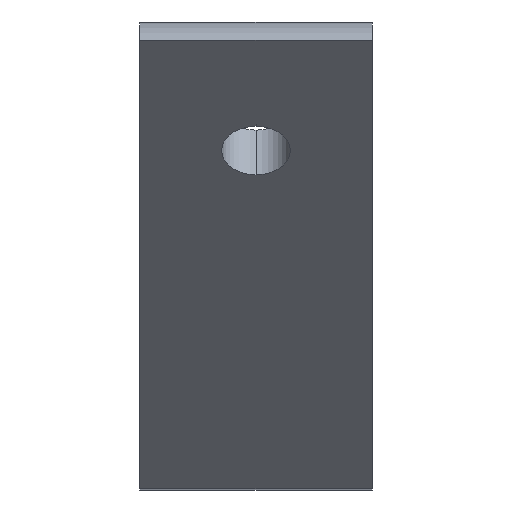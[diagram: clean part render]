
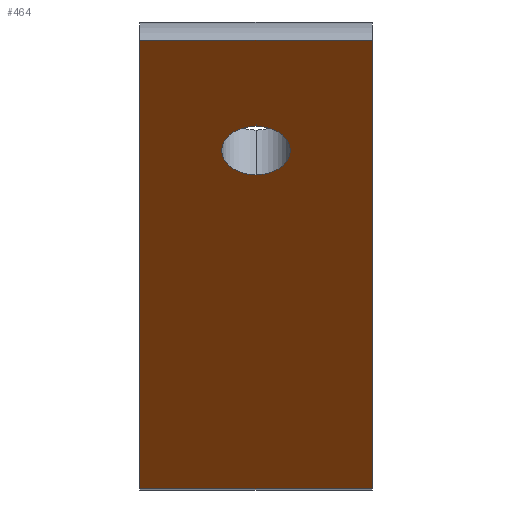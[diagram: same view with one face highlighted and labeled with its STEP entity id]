
A CAD part, top view. The second image highlights one B-rep face of the part: STEP entity #464.
In plain terms, the highlighted planar face has unit normal (0, -0.707, 0.707).
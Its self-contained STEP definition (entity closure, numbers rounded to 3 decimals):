
#17 = DIRECTION ( 'NONE',  ( 0., 0.707, -0.707 ) ) ;
#36 = CARTESIAN_POINT ( 'NONE',  ( 0., 21.855, 60.844 ) ) ;
#56 = DIRECTION ( 'NONE',  ( 0., 0.707, -0.707 ) ) ;
#67 = VERTEX_POINT ( 'NONE', #340 ) ;
#71 = CARTESIAN_POINT ( 'NONE',  ( 22., -20.571, 18.418 ) ) ;
#74 = CIRCLE ( 'NONE', #673, 3.25 ) ;
#111 = DIRECTION ( 'NONE',  ( 0., -0.707, -0.707 ) ) ;
#121 = DIRECTION ( 'NONE',  ( 0., 0.707, 0.707 ) ) ;
#128 = EDGE_LOOP ( 'NONE', ( #247, #502, #375, #581 ) ) ;
#173 = VERTEX_POINT ( 'NONE', #356 ) ;
#186 = AXIS2_PLACEMENT_3D ( 'NONE', #324, #17, #405 ) ;
#199 = DIRECTION ( 'NONE',  ( -1., 0., 0. ) ) ;
#209 = DIRECTION ( 'NONE',  ( -1., 0., 0. ) ) ;
#223 = CARTESIAN_POINT ( 'NONE',  ( 22., 21.855, 60.844 ) ) ;
#247 = ORIENTED_EDGE ( 'NONE', *, *, #338, .T. ) ;
#258 = CARTESIAN_POINT ( 'NONE',  ( 22., -20.571, 18.418 ) ) ;
#286 = EDGE_CURVE ( 'NONE', #638, #429, #622, .T. ) ;
#316 = VECTOR ( 'NONE', #199, 1000. ) ;
#324 = CARTESIAN_POINT ( 'NONE',  ( 11., 11.425, 50.414 ) ) ;
#334 = VERTEX_POINT ( 'NONE', #354 ) ;
#338 = EDGE_CURVE ( 'NONE', #509, #429, #423, .T. ) ;
#340 = CARTESIAN_POINT ( 'NONE',  ( 11., 9.127, 48.116 ) ) ;
#349 = EDGE_CURVE ( 'NONE', #334, #67, #403, .T. ) ;
#354 = CARTESIAN_POINT ( 'NONE',  ( 11., 13.724, 52.712 ) ) ;
#356 = CARTESIAN_POINT ( 'NONE',  ( 22., 21.855, 60.844 ) ) ;
#363 = CARTESIAN_POINT ( 'NONE',  ( 22., -20.571, 18.418 ) ) ;
#364 = CARTESIAN_POINT ( 'NONE',  ( 11., 11.425, 50.414 ) ) ;
#375 = ORIENTED_EDGE ( 'NONE', *, *, #624, .F. ) ;
#403 = CIRCLE ( 'NONE', #186, 3.25 ) ;
#404 = CARTESIAN_POINT ( 'NONE',  ( 22., -20.571, 18.418 ) ) ;
#405 = DIRECTION ( 'NONE',  ( 0., 0.707, 0.707 ) ) ;
#417 = DIRECTION ( 'NONE',  ( 0., 0.707, 0.707 ) ) ;
#423 = LINE ( 'NONE', #652, #565 ) ;
#429 = VERTEX_POINT ( 'NONE', #448 ) ;
#436 = DIRECTION ( 'NONE',  ( 0., 0.707, -0.707 ) ) ;
#441 = EDGE_LOOP ( 'NONE', ( #617, #628 ) ) ;
#448 = CARTESIAN_POINT ( 'NONE',  ( 0., -20.571, 18.418 ) ) ;
#455 = FACE_OUTER_BOUND ( 'NONE', #128, .T. ) ;
#464 = ADVANCED_FACE ( 'NONE', ( #605, #455 ), #663, .F. ) ;
#502 = ORIENTED_EDGE ( 'NONE', *, *, #286, .F. ) ;
#509 = VERTEX_POINT ( 'NONE', #36 ) ;
#535 = DIRECTION ( 'NONE',  ( 0., -0.707, -0.707 ) ) ;
#543 = VECTOR ( 'NONE', #209, 1000. ) ;
#565 = VECTOR ( 'NONE', #111, 1000. ) ;
#566 = AXIS2_PLACEMENT_3D ( 'NONE', #71, #436, #121 ) ;
#581 = ORIENTED_EDGE ( 'NONE', *, *, #613, .T. ) ;
#605 = FACE_BOUND ( 'NONE', #441, .T. ) ;
#613 = EDGE_CURVE ( 'NONE', #173, #509, #685, .T. ) ;
#617 = ORIENTED_EDGE ( 'NONE', *, *, #349, .T. ) ;
#622 = LINE ( 'NONE', #404, #316 ) ;
#624 = EDGE_CURVE ( 'NONE', #173, #638, #667, .T. ) ;
#628 = ORIENTED_EDGE ( 'NONE', *, *, #675, .T. ) ;
#638 = VERTEX_POINT ( 'NONE', #363 ) ;
#651 = VECTOR ( 'NONE', #535, 1000. ) ;
#652 = CARTESIAN_POINT ( 'NONE',  ( 0., -20.571, 18.418 ) ) ;
#663 = PLANE ( 'NONE',  #566 ) ;
#667 = LINE ( 'NONE', #258, #651 ) ;
#673 = AXIS2_PLACEMENT_3D ( 'NONE', #364, #56, #417 ) ;
#675 = EDGE_CURVE ( 'NONE', #67, #334, #74, .T. ) ;
#685 = LINE ( 'NONE', #223, #543 ) ;
